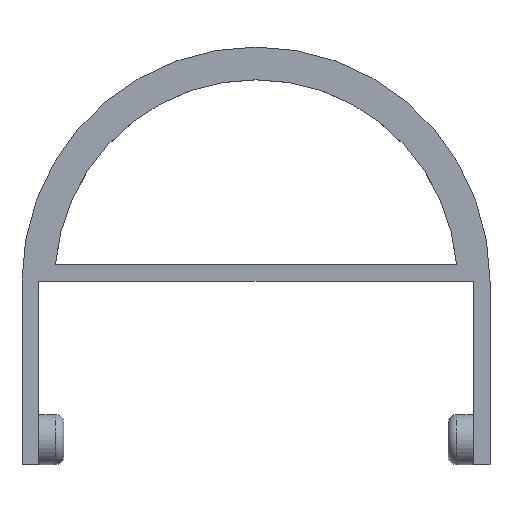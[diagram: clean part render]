
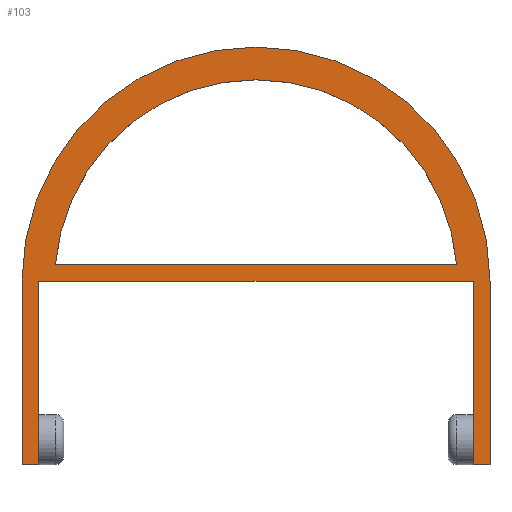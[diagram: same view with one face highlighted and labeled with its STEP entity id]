
A CAD part, top view. The second image highlights one B-rep face of the part: STEP entity #103.
In plain terms, the highlighted planar face has unit normal (0, 0, 1).
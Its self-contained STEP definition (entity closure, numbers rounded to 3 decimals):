
#103=ADVANCED_FACE('',(#277,#279),#281,.T.);
#277=FACE_BOUND('',#278,.T.);
#278=EDGE_LOOP('',(#421,#422,#423,#424,#425,#426,#427,#428));
#279=FACE_BOUND('',#280,.T.);
#280=EDGE_LOOP('',(#429,#430));
#281=PLANE('',#282);
#282=AXIS2_PLACEMENT_3D('',#283,#284,#285);
#283=CARTESIAN_POINT('',(0.,0.,6.));
#284=DIRECTION('',(0.,0.,1.));
#285=DIRECTION('',(1.,0.,0.));
#421=ORIENTED_EDGE('',*,*,#500,.T.);
#422=ORIENTED_EDGE('',*,*,#501,.T.);
#423=ORIENTED_EDGE('',*,*,#502,.T.);
#424=ORIENTED_EDGE('',*,*,#503,.T.);
#425=ORIENTED_EDGE('',*,*,#504,.T.);
#426=ORIENTED_EDGE('',*,*,#505,.T.);
#427=ORIENTED_EDGE('',*,*,#506,.T.);
#428=ORIENTED_EDGE('',*,*,#482,.T.);
#429=ORIENTED_EDGE('',*,*,#507,.T.);
#430=ORIENTED_EDGE('',*,*,#508,.T.);
#482=EDGE_CURVE('',#531,#529,#532,.T.);
#500=EDGE_CURVE('',#529,#561,#563,.T.);
#501=EDGE_CURVE('',#561,#564,#565,.T.);
#502=EDGE_CURVE('',#564,#566,#567,.T.);
#503=EDGE_CURVE('',#566,#568,#569,.T.);
#504=EDGE_CURVE('',#568,#570,#571,.T.);
#505=EDGE_CURVE('',#570,#572,#573,.T.);
#506=EDGE_CURVE('',#572,#531,#574,.T.);
#507=EDGE_CURVE('',#575,#576,#577,.F.);
#508=EDGE_CURVE('',#576,#575,#578,.F.);
#529=VERTEX_POINT('',#611);
#531=VERTEX_POINT('',#615);
#532=LINE('',#616,#617);
#561=VERTEX_POINT('',#683);
#563=LINE('',#687,#688);
#564=VERTEX_POINT('',#690);
#565=LINE('',#691,#692);
#566=VERTEX_POINT('',#694);
#567=CIRCLE('',#695,28.);
#568=VERTEX_POINT('',#699);
#569=LINE('',#700,#701);
#570=VERTEX_POINT('',#703);
#571=LINE('',#704,#705);
#572=VERTEX_POINT('',#707);
#573=LINE('',#708,#709);
#574=LINE('',#711,#712);
#575=VERTEX_POINT('',#714);
#576=VERTEX_POINT('',#715);
#577=LINE('',#716,#717);
#578=CIRCLE('',#719,24.083);
#611=CARTESIAN_POINT('',(52.,0.,6.));
#615=CARTESIAN_POINT('',(52.,22.,6.));
#616=CARTESIAN_POINT('',(52.,22.,6.));
#617=VECTOR('',#618,1.);
#618=DIRECTION('',(0.,-1.,0.));
#683=CARTESIAN_POINT('',(54.,0.,6.));
#687=CARTESIAN_POINT('',(52.,0.,6.));
#688=VECTOR('',#689,1.);
#689=DIRECTION('',(1.,0.,0.));
#690=CARTESIAN_POINT('',(54.,22.,6.));
#691=CARTESIAN_POINT('',(54.,0.,6.));
#692=VECTOR('',#693,1.);
#693=DIRECTION('',(0.,1.,0.));
#694=CARTESIAN_POINT('',(-2.,22.,6.));
#695=AXIS2_PLACEMENT_3D('',#696,#697,#698);
#696=CARTESIAN_POINT('',(26.,22.,6.));
#697=DIRECTION('',(0.,0.,1.));
#698=DIRECTION('',(1.,0.,0.));
#699=CARTESIAN_POINT('',(-2.,0.,6.));
#700=CARTESIAN_POINT('',(-2.,22.,6.));
#701=VECTOR('',#702,1.);
#702=DIRECTION('',(0.,-1.,0.));
#703=CARTESIAN_POINT('',(0.,0.,6.));
#704=CARTESIAN_POINT('',(-2.,0.,6.));
#705=VECTOR('',#706,1.);
#706=DIRECTION('',(1.,0.,0.));
#707=CARTESIAN_POINT('',(0.,22.,6.));
#708=CARTESIAN_POINT('',(0.,0.,6.));
#709=VECTOR('',#710,1.);
#710=DIRECTION('',(0.,1.,0.));
#711=CARTESIAN_POINT('',(0.,22.,6.));
#712=VECTOR('',#713,1.);
#713=DIRECTION('',(1.,0.,0.));
#714=CARTESIAN_POINT('',(50.,24.,6.));
#715=CARTESIAN_POINT('',(2.,24.,6.));
#716=CARTESIAN_POINT('',(2.,24.,6.));
#717=VECTOR('',#718,1.);
#718=DIRECTION('',(1.,0.,0.));
#719=AXIS2_PLACEMENT_3D('',#720,#721,#722);
#720=CARTESIAN_POINT('',(26.,22.,6.));
#721=DIRECTION('',(0.,-0.,1.));
#722=DIRECTION('',(0.997,0.083,0.));
